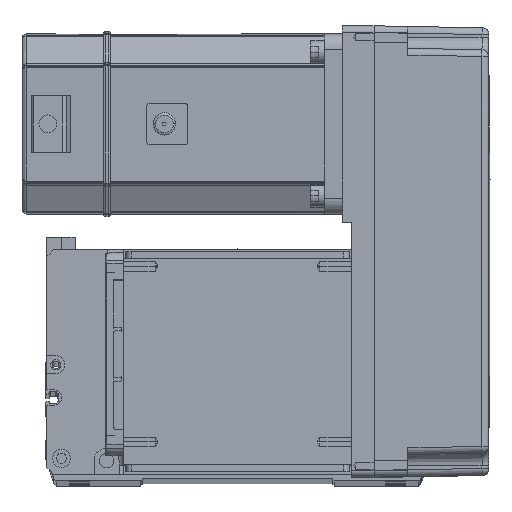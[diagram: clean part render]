
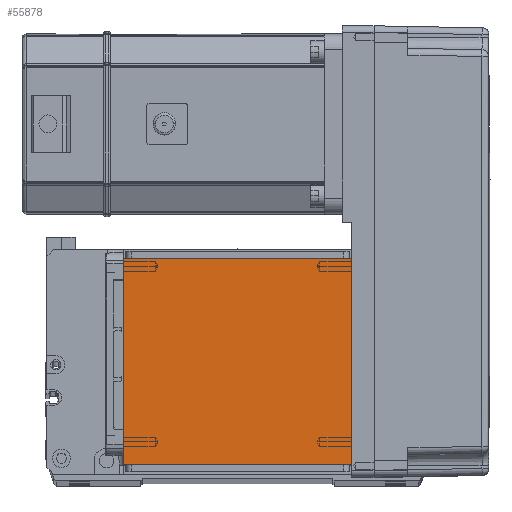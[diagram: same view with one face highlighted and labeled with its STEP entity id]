
A CAD part, top view. The second image highlights one B-rep face of the part: STEP entity #55878.
In plain terms, the highlighted planar face has unit normal (0, 0, 1).
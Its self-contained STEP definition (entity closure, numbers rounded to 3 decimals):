
#1319 = LINE ( 'NONE', #44625, #48832 ) ;
#2872 = VECTOR ( 'NONE', #24772, 1000. ) ;
#3357 = VECTOR ( 'NONE', #52161, 1000. ) ;
#4939 = CARTESIAN_POINT ( 'NONE',  ( -50.5, 20., 115. ) ) ;
#6854 = LINE ( 'NONE', #26570, #9713 ) ;
#7032 = LINE ( 'NONE', #15793, #3357 ) ;
#8051 = PLANE ( 'NONE',  #48512 ) ;
#8674 = FACE_OUTER_BOUND ( 'NONE', #29540, .T. ) ;
#9713 = VECTOR ( 'NONE', #49196, 1000. ) ;
#10120 = EDGE_CURVE ( 'NONE', #36846, #46691, #6854, .T. ) ;
#12159 = LINE ( 'NONE', #47248, #2872 ) ;
#12230 = DIRECTION ( 'NONE',  ( 0., 0., 1. ) ) ;
#15754 = EDGE_CURVE ( 'NONE', #25622, #46691, #1319, .T. ) ;
#15793 = CARTESIAN_POINT ( 'NONE',  ( 50.5, 122., 115. ) ) ;
#16889 = DIRECTION ( 'NONE',  ( 0., -1., 0. ) ) ;
#21499 = CARTESIAN_POINT ( 'NONE',  ( 50.5, 111.5, 115. ) ) ;
#22954 = ORIENTED_EDGE ( 'NONE', *, *, #56437, .F. ) ;
#24512 = EDGE_CURVE ( 'NONE', #36846, #36868, #7032, .T. ) ;
#24772 = DIRECTION ( 'NONE',  ( 1., 0., 0. ) ) ;
#25622 = VERTEX_POINT ( 'NONE', #33736 ) ;
#26570 = CARTESIAN_POINT ( 'NONE',  ( -70.004, 20., 115. ) ) ;
#28935 = ORIENTED_EDGE ( 'NONE', *, *, #15754, .T. ) ;
#29540 = EDGE_LOOP ( 'NONE', ( #22954, #28935, #53743, #53302 ) ) ;
#33736 = CARTESIAN_POINT ( 'NONE',  ( -50.5, 111.5, 115. ) ) ;
#35777 = DIRECTION ( 'NONE',  ( 1., 0., 0. ) ) ;
#36846 = VERTEX_POINT ( 'NONE', #44214 ) ;
#36868 = VERTEX_POINT ( 'NONE', #21499 ) ;
#39813 = CARTESIAN_POINT ( 'NONE',  ( 0., 0., 115. ) ) ;
#44214 = CARTESIAN_POINT ( 'NONE',  ( 50.5, 20., 115. ) ) ;
#44625 = CARTESIAN_POINT ( 'NONE',  ( -50.5, 122., 115. ) ) ;
#46691 = VERTEX_POINT ( 'NONE', #4939 ) ;
#47248 = CARTESIAN_POINT ( 'NONE',  ( -70.004, 111.5, 115. ) ) ;
#48512 = AXIS2_PLACEMENT_3D ( 'NONE', #39813, #12230, #35777 ) ;
#48832 = VECTOR ( 'NONE', #16889, 1000. ) ;
#49196 = DIRECTION ( 'NONE',  ( -1., 0., 0. ) ) ;
#52161 = DIRECTION ( 'NONE',  ( 0., 1., 0. ) ) ;
#53302 = ORIENTED_EDGE ( 'NONE', *, *, #24512, .T. ) ;
#53743 = ORIENTED_EDGE ( 'NONE', *, *, #10120, .F. ) ;
#55878 = ADVANCED_FACE ( 'NONE', ( #8674 ), #8051, .T. ) ;
#56437 = EDGE_CURVE ( 'NONE', #25622, #36868, #12159, .T. ) ;
